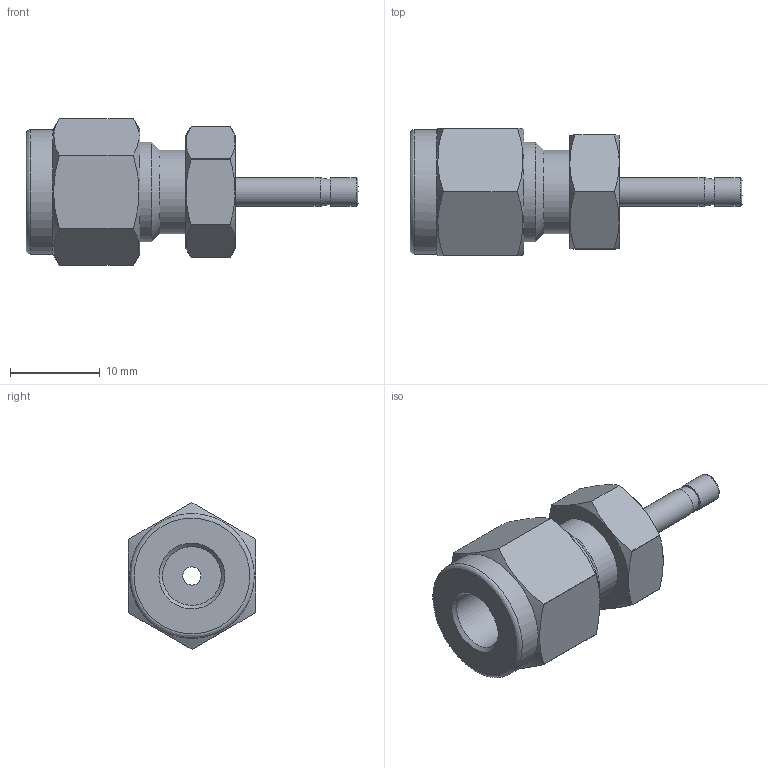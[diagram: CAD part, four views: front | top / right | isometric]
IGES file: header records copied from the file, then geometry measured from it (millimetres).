
Global section: file name: SR-4-2; native system: Autodesk Inventor 2016; preprocessor: unknown; author: DESIGNPC2; date: 20151111.162634; units: millimetre
Bounding box: 37.04 x 14.21 x 16.4 mm (x, y, z)
Volume: 2815.4 mm3; surface area: 2024.5 mm2
Topology: 1 solids, 1 shells, 43 faces, 122 edges, 86 vertices
Faces by surface type: bspline 43
